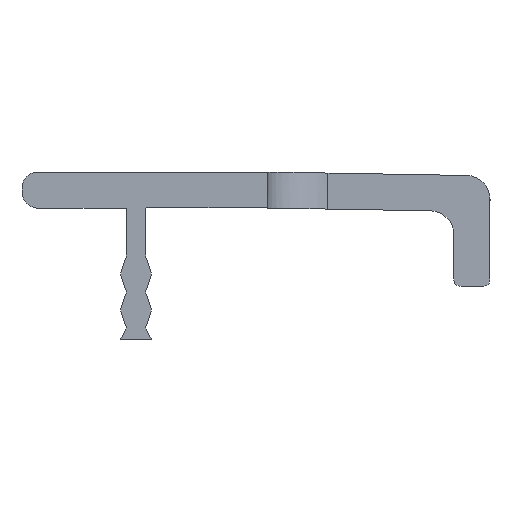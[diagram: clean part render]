
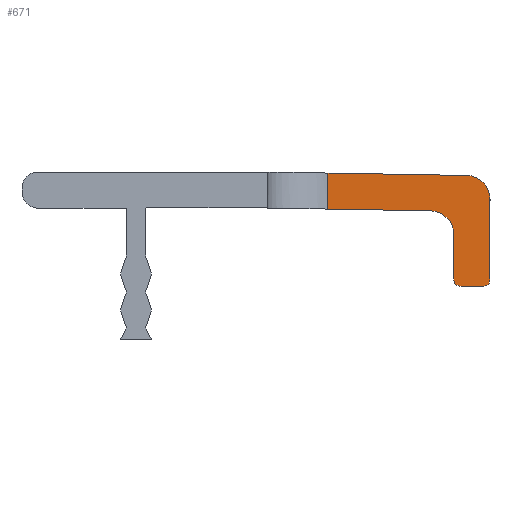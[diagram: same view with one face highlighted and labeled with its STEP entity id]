
A CAD part, left-side view. The second image highlights one B-rep face of the part: STEP entity #671.
In plain terms, the highlighted planar face has unit normal (-1, 0, 0).
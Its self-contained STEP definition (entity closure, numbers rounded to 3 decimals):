
#319 = EDGE_CURVE( '', #439, #323, #795, .T. );
#323 = VERTEX_POINT( '', #799 );
#341 = EDGE_CURVE( '', #427, #491, #819, .T. );
#383 = VERTEX_POINT( '', #866 );
#385 = VERTEX_POINT( '', #868 );
#395 = EDGE_CURVE( '', #533, #645, #879, .T. );
#403 = EDGE_CURVE( '', #385, #427, #888, .T. );
#419 = EDGE_CURVE( '', #323, #383, #905, .T. );
#427 = VERTEX_POINT( '', #913 );
#439 = VERTEX_POINT( '', #927 );
#455 = EDGE_CURVE( '', #547, #533, #944, .T. );
#491 = VERTEX_POINT( '', #982 );
#527 = EDGE_CURVE( '', #439, #615, #1022, .T. );
#533 = VERTEX_POINT( '', #1029 );
#547 = VERTEX_POINT( '', #1045 );
#569 = EDGE_CURVE( '', #491, #615, #1067, .T. );
#615 = VERTEX_POINT( '', #1118 );
#645 = VERTEX_POINT( '', #1150 );
#671 = ADVANCED_FACE( '', ( #1178 ), #1179, .F. );
#673 = EDGE_CURVE( '', #383, #547, #1181, .T. );
#689 = EDGE_CURVE( '', #645, #385, #1199, .T. );
#795 = LINE( '', #1331, #1332 );
#799 = CARTESIAN_POINT( '', ( -447.5, -27.535, 2.711 ) );
#819 = CIRCLE( '', #1364, 2. );
#866 = CARTESIAN_POINT( '', ( -447.5, -29.5, 0.712 ) );
#868 = CARTESIAN_POINT( '', ( -447.5, -26.5, -6. ) );
#879 = LINE( '', #1445, #1446 );
#888 = LINE( '', #1456, #1457 );
#905 = CIRCLE( '', #1482, 2. );
#913 = CARTESIAN_POINT( '', ( -447.5, -26.5, -2.236 ) );
#927 = CARTESIAN_POINT( '', ( -447.5, -16., 2.913 ) );
#944 = CIRCLE( '', #1535, 0.5 );
#982 = CARTESIAN_POINT( '', ( -447.5, -24.535, -0.237 ) );
#1022 = LINE( '', #1646, #1647 );
#1029 = CARTESIAN_POINT( '', ( -447.5, -29., -6.5 ) );
#1045 = CARTESIAN_POINT( '', ( -447.5, -29.5, -6. ) );
#1067 = LINE( '', #1711, #1712 );
#1118 = CARTESIAN_POINT( '', ( -447.5, -16., -0.088 ) );
#1150 = CARTESIAN_POINT( '', ( -447.5, -27., -6.5 ) );
#1178 = FACE_OUTER_BOUND( '', #1861, .T. );
#1179 = PLANE( '', #1862 );
#1181 = LINE( '', #1865, #1866 );
#1199 = CIRCLE( '', #1893, 0.5 );
#1331 = CARTESIAN_POINT( '', ( -447.5, -20.186, 2.84 ) );
#1332 = VECTOR( '', #2013, 1. );
#1364 = AXIS2_PLACEMENT_3D( '', #2038, #2039, #2040 );
#1445 = CARTESIAN_POINT( '', ( -447.5, -29.25, -6.5 ) );
#1446 = VECTOR( '', #2109, 1. );
#1456 = CARTESIAN_POINT( '', ( -447.5, -26.5, 2. ) );
#1457 = VECTOR( '', #2118, 1. );
#1482 = AXIS2_PLACEMENT_3D( '', #2133, #2134, #2135 );
#1535 = AXIS2_PLACEMENT_3D( '', #2177, #2178, #2179 );
#1646 = CARTESIAN_POINT( '', ( -447.5, -16., 10. ) );
#1647 = VECTOR( '', #2248, 1. );
#1711 = CARTESIAN_POINT( '', ( -447.5, -26.927, -0.278 ) );
#1712 = VECTOR( '', #2292, 1. );
#1861 = EDGE_LOOP( '', ( #2390, #2391, #2392, #2393, #2394, #2395, #2396, #2397, #2398, #2399 ) );
#1862 = AXIS2_PLACEMENT_3D( '', #2400, #2401, #2402 );
#1865 = CARTESIAN_POINT( '', ( -447.5, -29.5, 5.356 ) );
#1866 = VECTOR( '', #2403, 1. );
#1893 = AXIS2_PLACEMENT_3D( '', #2445, #2446, #2447 );
#2013 = DIRECTION( '', ( 0., -1., -0.017 ) );
#2038 = CARTESIAN_POINT( '', ( -447.5, -24.5, -2.236 ) );
#2039 = DIRECTION( '', ( -1., 0., 0. ) );
#2040 = DIRECTION( '', ( 0., -1., 0. ) );
#2109 = DIRECTION( '', ( 0., 1., 0. ) );
#2118 = DIRECTION( '', ( 0., 0., 1. ) );
#2133 = CARTESIAN_POINT( '', ( -447.5, -27.5, 0.712 ) );
#2134 = DIRECTION( '', ( 1., 0., 0. ) );
#2135 = DIRECTION( '', ( 0., -0.017, 1. ) );
#2177 = CARTESIAN_POINT( '', ( -447.5, -29., -6. ) );
#2178 = DIRECTION( '', ( 1., 0., 0. ) );
#2179 = DIRECTION( '', ( 0., -1., 0. ) );
#2248 = DIRECTION( '', ( 0., 0., -1. ) );
#2292 = DIRECTION( '', ( 0., 1., 0.017 ) );
#2390 = ORIENTED_EDGE( '', *, *, #319, .F. );
#2391 = ORIENTED_EDGE( '', *, *, #527, .T. );
#2392 = ORIENTED_EDGE( '', *, *, #569, .F. );
#2393 = ORIENTED_EDGE( '', *, *, #341, .F. );
#2394 = ORIENTED_EDGE( '', *, *, #403, .F. );
#2395 = ORIENTED_EDGE( '', *, *, #689, .F. );
#2396 = ORIENTED_EDGE( '', *, *, #395, .F. );
#2397 = ORIENTED_EDGE( '', *, *, #455, .F. );
#2398 = ORIENTED_EDGE( '', *, *, #673, .F. );
#2399 = ORIENTED_EDGE( '', *, *, #419, .F. );
#2400 = CARTESIAN_POINT( '', ( -447.5, -29.5, 10. ) );
#2401 = DIRECTION( '', ( 1., 0., 0. ) );
#2402 = DIRECTION( '', ( 0., -1., 0. ) );
#2403 = DIRECTION( '', ( 0., 0., -1. ) );
#2445 = CARTESIAN_POINT( '', ( -447.5, -27., -6. ) );
#2446 = DIRECTION( '', ( 1., 0., 0. ) );
#2447 = DIRECTION( '', ( 0., 0., -1. ) );
